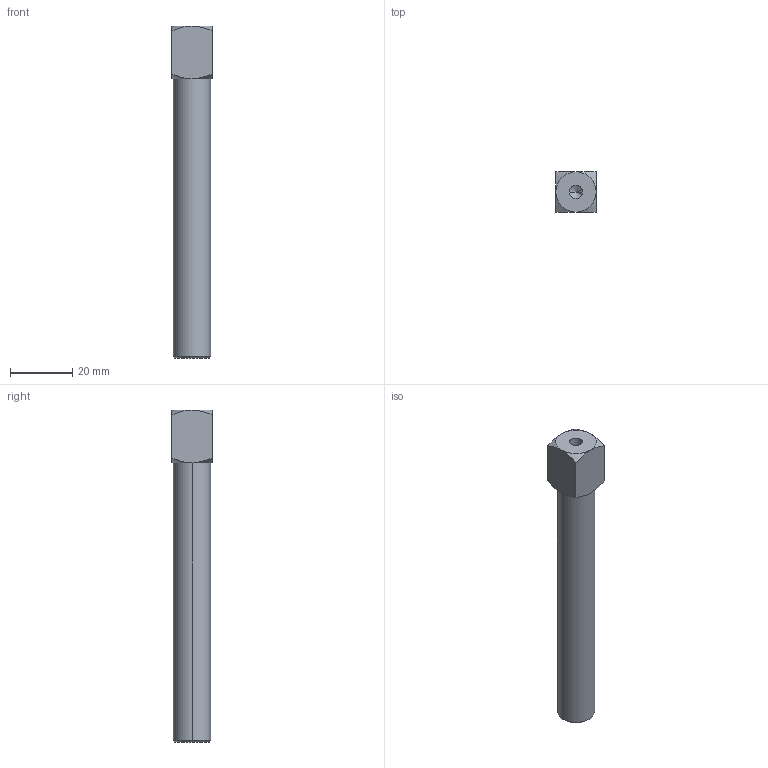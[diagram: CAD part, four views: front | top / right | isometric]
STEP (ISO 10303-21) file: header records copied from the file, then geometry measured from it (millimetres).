
FILE_DESCRIPTION (( 'STEP AP214' ), '1' );
FILE_NAME ('SVE-M51290.STEP', '2023-01-29T06:29:43', ( 'Windows User' ), ( 'P R C' ), 'SwSTEP 2.0', 'SolidWorks 2019', '' );
FILE_SCHEMA (( 'AUTOMOTIVE_DESIGN' ));
Length unit declared in the file: millimetre
Products named in the file (1): SVE-M51290
Bounding box: 13 x 13 x 107 mm (x, y, z)
Volume: 10353.9 mm3; surface area: 6364.9 mm2
Topology: 1 solids, 1 shells, 33 faces, 75 edges, 42 vertices
Faces by surface type: cone 18, cylinder 8, plane 7
Entity records: 1001 total; most frequent: CARTESIAN_POINT 273, DIRECTION 145, ORIENTED_EDGE 142, EDGE_CURVE 71, AXIS2_PLACEMENT_3D 62, VERTEX_POINT 42, EDGE_LOOP 37, FACE_OUTER_BOUND 33
